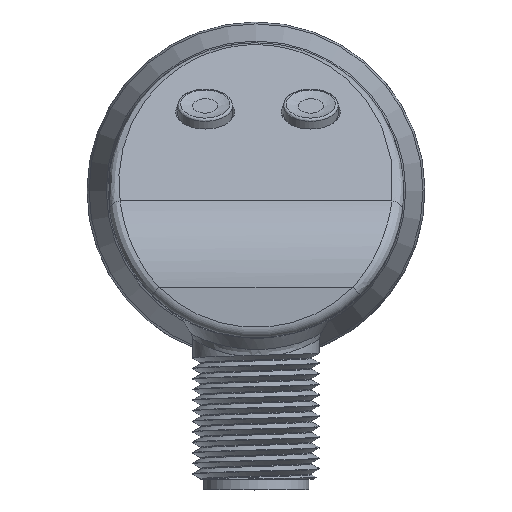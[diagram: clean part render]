
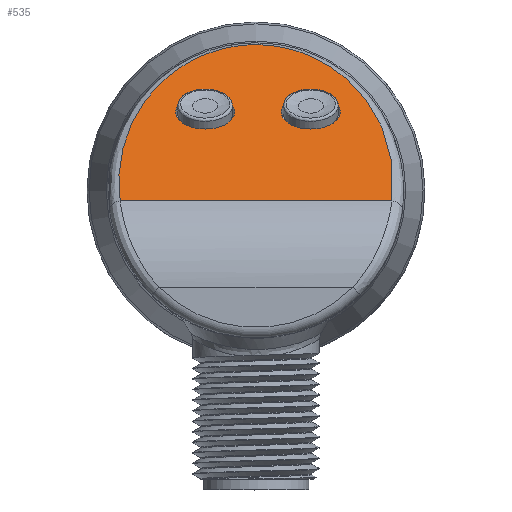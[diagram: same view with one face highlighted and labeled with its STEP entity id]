
A CAD part, top view. The second image highlights one B-rep face of the part: STEP entity #535.
In plain terms, the highlighted planar face has unit normal (0, 0.819, 0.574).
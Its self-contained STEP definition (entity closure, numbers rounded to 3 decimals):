
#307=ELLIPSE('',#3791,22.665,13.);
#346=FACE_BOUND('',#1034,.T.);
#347=FACE_BOUND('',#1035,.T.);
#348=FACE_BOUND('',#1036,.T.);
#535=ADVANCED_FACE('',(#346,#347,#348),#727,.T.);
#727=PLANE('',#3792);
#1034=EDGE_LOOP('',(#2101));
#1035=EDGE_LOOP('',(#2102));
#1036=EDGE_LOOP('',(#2103,#2104));
#1369=LINE('',#7443,#1551);
#1551=VECTOR('',#4425,1.);
#2101=ORIENTED_EDGE('',*,*,#3248,.T.);
#2102=ORIENTED_EDGE('',*,*,#3249,.T.);
#2103=ORIENTED_EDGE('',*,*,#3250,.T.);
#2104=ORIENTED_EDGE('',*,*,#3251,.T.);
#2862=VERTEX_POINT('',#7440);
#2863=VERTEX_POINT('',#7442);
#2864=VERTEX_POINT('',#7444);
#2865=VERTEX_POINT('',#7445);
#3248=EDGE_CURVE('',#2862,#2862,#3548,.T.);
#3249=EDGE_CURVE('',#2863,#2863,#3549,.T.);
#3250=EDGE_CURVE('',#2864,#2865,#1369,.T.);
#3251=EDGE_CURVE('',#2865,#2864,#307,.T.);
#3548=CIRCLE('',#3789,2.8);
#3549=CIRCLE('',#3790,2.8);
#3789=AXIS2_PLACEMENT_3D('',#7439,#4421,#4422);
#3790=AXIS2_PLACEMENT_3D('',#7441,#4423,#4424);
#3791=AXIS2_PLACEMENT_3D('',#7446,#4426,#4427);
#3792=AXIS2_PLACEMENT_3D('',#7447,#4428,#4429);
#4421=DIRECTION('',(0.,-0.819,-0.574));
#4422=DIRECTION('',(0.,-0.574,0.819));
#4423=DIRECTION('',(0.,-0.819,-0.574));
#4424=DIRECTION('',(0.,-0.574,0.819));
#4425=DIRECTION('',(1.,0.,0.));
#4426=DIRECTION('',(0.,0.819,0.574));
#4427=DIRECTION('',(0.,0.574,-0.819));
#4428=DIRECTION('',(0.,0.819,0.574));
#4429=DIRECTION('',(0.,-0.574,0.819));
#7439=CARTESIAN_POINT('',(5.188,7.421,29.701));
#7440=CARTESIAN_POINT('',(5.188,5.815,31.995));
#7441=CARTESIAN_POINT('',(-4.812,7.421,29.701));
#7442=CARTESIAN_POINT('',(-4.812,5.815,31.995));
#7443=CARTESIAN_POINT('',(5.,-1.006,41.736));
#7444=CARTESIAN_POINT('',(-12.871,-1.006,41.736));
#7445=CARTESIAN_POINT('',(12.871,-1.006,41.736));
#7446=CARTESIAN_POINT('',(0.,0.819,39.13));
#7447=CARTESIAN_POINT('',(5.,5.5,32.444));
